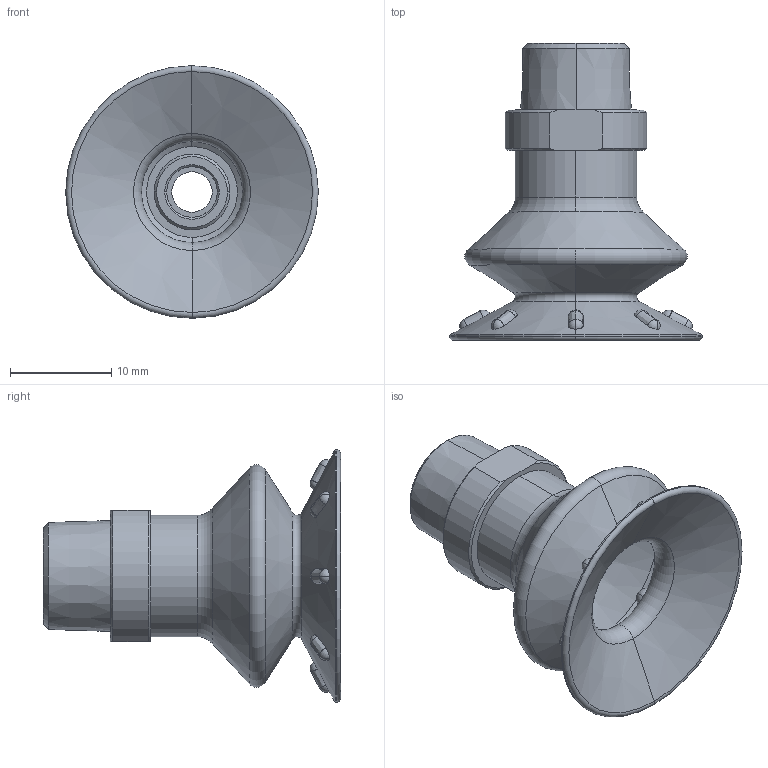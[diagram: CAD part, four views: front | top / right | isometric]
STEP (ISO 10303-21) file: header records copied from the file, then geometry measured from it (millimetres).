
FILE_DESCRIPTION (( 'STEP AP214' ), '1' );
FILE_NAME ('SB25P-3055-18M.STEP', '2025-11-07T16:54:25', ( '' ), ( '' ), 'SwSTEP 2.0', 'SolidWorks 2025', '' );
FILE_SCHEMA (( 'AUTOMOTIVE_DESIGN' ));
Length unit declared in the file: inch
Products named in the file (3): SB25P-3055; 401.037; SB25P-3055-18M
Assembly tree (2 placements, depth 2):
  SB25P-3055-18M
    401.037
    SB25P-3055
Bounding box: 25 x 29.41 x 25 mm (x, y, z)
Volume: 2903.6 mm3; surface area: 3777.1 mm2
Topology: 2 solids, 2 shells, 147 faces, 337 edges, 182 vertices
Faces by surface type: sphere 48, cone 29, cylinder 24, torus 16, bspline 16, plane 14
Entity records: 5602 total; most frequent: CARTESIAN_POINT 2614, ORIENTED_EDGE 608, DIRECTION 566, EDGE_CURVE 304, AXIS2_PLACEMENT_3D 254, VERTEX_POINT 182, EDGE_LOOP 172, FACE_OUTER_BOUND 147
